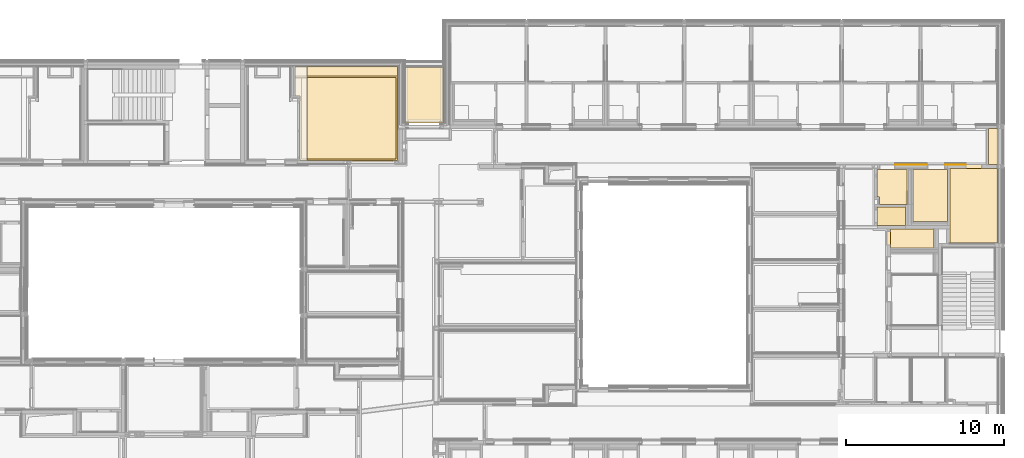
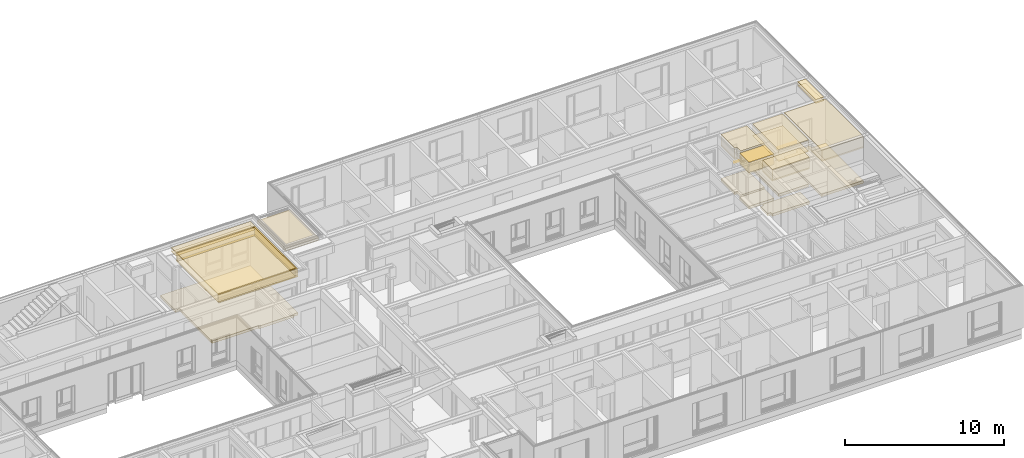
# One storey, part 187 of 207: 41 coverings.
"""IFC4 building model written with IfcOpenShell, lengths in metres."""

from ifc_helpers import new_model, entity, si_unit, converted_unit, derived_unit, frame, frame_2d, origin, origin_with_axes, place, context, subcontext, project, spatial, polyline, rectangle, outline, extrude, material, layer, layer_set, layer_usage, element, save


model = new_model("IFC4")

# Units and contexts
model_context = context("Model", 3, precision=1e-05, world=origin())
body_context = subcontext(model_context, "Body", "Model", "MODEL_VIEW")
ifc_project = project(units=[si_unit("LENGTHUNIT", "METRE"), si_unit("AREAUNIT", "SQUARE_METRE"), si_unit("VOLUMEUNIT", "CUBIC_METRE"), si_unit("MASSUNIT", "GRAM", prefix="KILO"), converted_unit("PLANEANGLEUNIT", "DEGREE", entity("IfcPlaneAngleMeasure", 0.0174532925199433), si_unit("PLANEANGLEUNIT", "RADIAN"), dimensions=[0, 0, 0, 0, 0, 0, 0]), derived_unit("THERMALTRANSMITTANCEUNIT", [(si_unit("POWERUNIT", "WATT"), 1), (si_unit("THERMODYNAMICTEMPERATUREUNIT", "KELVIN"), -1), (si_unit("LENGTHUNIT", "METRE"), -2)]), derived_unit("VOLUMETRICFLOWRATEUNIT", [(si_unit("LENGTHUNIT", "METRE"), 3), (converted_unit("TIMEUNIT", "hour", entity("IfcTimeMeasure", 3600.0), si_unit("TIMEUNIT", "SECOND"), dimensions=[0, 0, 1, 0, 0, 0, 0]), -1), (si_unit("LENGTHUNIT", "METRE"), -1)])], contexts=[model_context])

# Site, building, storey, space
site_placement = place(None, origin())
site = spatial("IfcSite", under=ifc_project, at=site_placement, Name="Psychiatrie Neubau Wunstorf", CompositionType="ELEMENT")
building_placement = place(site_placement, origin())
building = spatial("IfcBuilding", under=site, at=building_placement, Name="Neubau H2 Stationsgebäude", CompositionType="ELEMENT")
storey_placement = place(building_placement, frame((0.0, 0.0, -0.2)))
storey = spatial("IfcBuildingStorey", under=building, at=storey_placement, Name="H2 Ebene 0", CompositionType="ELEMENT", Elevation=-0.2)
space_1_placement = place(storey_placement, frame((74.055, 22.036, 0.0)))
space_1 = spatial("IfcSpace", under=storey, at=space_1_placement, Name="WUN-H2-E00-F09", CompositionType="ELEMENT")

# Coverings
ifc_material_1 = material(Name="97")
ifc_layer_1 = layer(ifc_material_1, 0.001)
ifc_layer_set_1 = layer_set([ifc_layer_1])
ifc_layer_usage_1 = layer_usage(ifc_layer_set_1, "AXIS3", "POSITIVE", 0.0)
covering_1_placement = place(space_1_placement, frame((25.3300062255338, 0.799999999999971, 0.8)))
element("IfcCovering", 1, at=covering_1_placement, inside=space_1, material=ifc_layer_usage_1, Name="Handlauf", PredefinedType="CLADDING", context=body_context, shape_type="SweptSolid", body=[
    extrude(rectangle(XDim=1.32255181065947, YDim=0.1, at=frame_2d((-0.661275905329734, 0.05), x_axis=(-1.0, 0.0))), frame((4.48753909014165, 0.0, 0.1), z_axis=(0.0, 1.0, 0.0), x_axis=(1.0, 0.0, 0.0)), (0.0, 0.0, 1.0), 0.001),
    extrude(rectangle(XDim=0.1, YDim=2.02998727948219, at=frame_2d((-1.01499363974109, -0.05), x_axis=(0.0, -1.0))), frame((2.02998727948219, 0.0, 0.0), z_axis=(0.0, 1.0, 0.0), x_axis=(1.0, 0.0, 0.0)), (0.0, 0.0, 1.0), 0.001),
])
ifc_material_2 = material()
ifc_layer_2 = layer(ifc_material_2, 0.036)
ifc_layer_set_2 = layer_set([ifc_layer_2])
ifc_layer_usage_2 = layer_usage(ifc_layer_set_2, "AXIS3", "POSITIVE", 0.0)
covering_2_placement = place(space_1_placement, frame((31.245, 0.799999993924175, 3.6)))
element("IfcCovering", 2, at=covering_2_placement, inside=space_1, material=ifc_layer_usage_2, Name="Gipsfaserplatten 2-lagig (BSK)", PredefinedType="CEILING", context=body_context, shape_type="SweptSolid", body=[
    extrude(rectangle(XDim=0.588999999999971, YDim=2.28150000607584, at=frame_2d((0.294499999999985, 1.14075000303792), x_axis=(1.0, 0.0))), frame((0.0, 2.28150000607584, 0.0), z_axis=(0.0, 0.0, -1.0), x_axis=(1.0, 0.0, 0.0)), (0.0, 0.0, 1.0), 0.036),
])
ifc_material_3 = material(Name="Installationshöhe")
ifc_layer_3 = layer(ifc_material_3, 0.164)
ifc_layer_set_3 = layer_set([ifc_layer_3])
ifc_layer_usage_3 = layer_usage(ifc_layer_set_3, "AXIS3", "POSITIVE", 0.0)
covering_3_placement = place(space_1_placement, frame((31.245, 0.799999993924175, 3.564)))
element("IfcCovering", 3, at=covering_3_placement, inside=space_1, material=ifc_layer_usage_3, Name="Gipsfaserplatten 2-lagig (BSK)", PredefinedType="CEILING", context=body_context, shape_type="SweptSolid", body=[
    extrude(rectangle(XDim=0.588999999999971, YDim=2.28150000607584, at=frame_2d((0.294499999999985, 1.14075000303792), x_axis=(1.0, 0.0))), frame((0.0, 2.28150000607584, 0.0), z_axis=(0.0, 0.0, -1.0), x_axis=(1.0, 0.0, 0.0)), (0.0, 0.0, 1.0), 0.164),
])
ifc_material_4 = material(Name="A1")
ifc_layer_4 = layer(ifc_material_4, 0.1)
ifc_layer_set_4 = layer_set([ifc_layer_4])
ifc_layer_usage_4 = layer_usage(ifc_layer_set_4, "AXIS3", "POSITIVE", 0.0)
covering_4_placement = place(space_1_placement, frame((31.245, 0.799999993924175, 3.4)))
element("IfcCovering", 4, at=covering_4_placement, inside=space_1, material=ifc_layer_usage_4, Name="Gipsfaserplatten 2-lagig (BSK)", PredefinedType="CEILING", context=body_context, shape_type="SweptSolid", body=[
    extrude(rectangle(XDim=0.588999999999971, YDim=2.28150000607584, at=frame_2d((0.294499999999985, 1.14075000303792), x_axis=(1.0, 0.0))), frame((0.0, 2.28150000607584, 0.0), z_axis=(0.0, 0.0, -1.0), x_axis=(1.0, 0.0, 0.0)), (0.0, 0.0, 1.0), 0.1),
])
ifc_material_5 = material(Name="D1")
ifc_layer_5 = layer(ifc_material_5, 0.001)
ifc_layer_set_5 = layer_set([ifc_layer_5])
ifc_layer_usage_5 = layer_usage(ifc_layer_set_5, "AXIS3", "POSITIVE", 0.0)
covering_5_placement = place(space_1_placement, frame((31.245, 0.799999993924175, 3.3)))
element("IfcCovering", 5, at=covering_5_placement, inside=space_1, material=ifc_layer_usage_5, Name="Gipsfaserplatten 2-lagig (BSK)", PredefinedType="CEILING", context=body_context, shape_type="SweptSolid", body=[
    extrude(rectangle(XDim=0.588999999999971, YDim=2.28150000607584, at=frame_2d((0.294499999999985, 1.14075000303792), x_axis=(1.0, 0.0))), frame((0.0, 2.28150000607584, 0.0), z_axis=(0.0, 0.0, -1.0), x_axis=(1.0, 0.0, 0.0)), (0.0, 0.0, 1.0), 0.001),
])

# Space
space_2_placement = place(storey_placement, frame((99.0909999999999, 17.5520026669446, 0.0)))
space_2 = spatial("IfcSpace", under=storey, at=space_2_placement, Name="WUN-H2-E00-079", CompositionType="ELEMENT")

# Coverings
ifc_material_6 = material()
ifc_layer_6 = layer(ifc_material_6, 0.036)
ifc_layer_set_6 = layer_set([ifc_layer_6])
ifc_layer_usage_6 = layer_usage(ifc_layer_set_6, "AXIS3", "POSITIVE", 0.0)
covering_6_placement = place(space_2_placement, frame((0.0, 0.0, 3.6)))
element("IfcCovering", 6, at=covering_6_placement, inside=space_2, material=ifc_layer_usage_6, Name="Gipsfaserplatten 2-lagig (BSK)", PredefinedType="CEILING", context=body_context, shape_type="SweptSolid", body=[
    extrude(rectangle(XDim=1.20200134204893, YDim=2.71900000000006, at=frame_2d((1.35950000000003, -0.601000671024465), x_axis=(0.0, -1.0))), frame((0.0, 0.0, 0.0), z_axis=(0.0, 0.0, -1.0), x_axis=(1.0, 0.0, 0.0)), (0.0, 0.0, 1.0), 0.036),
])
ifc_material_7 = material(Name="Installationshöhe")
ifc_layer_7 = layer(ifc_material_7, 0.764)
ifc_layer_set_7 = layer_set([ifc_layer_7])
ifc_layer_usage_7 = layer_usage(ifc_layer_set_7, "AXIS3", "POSITIVE", 0.0)
covering_7_placement = place(space_2_placement, frame((0.0, 0.0, 3.564)))
element("IfcCovering", 7, at=covering_7_placement, inside=space_2, material=ifc_layer_usage_7, Name="Gipsfaserplatten 2-lagig (BSK)", PredefinedType="CEILING", context=body_context, shape_type="SweptSolid", body=[
    extrude(rectangle(XDim=1.20200134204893, YDim=2.71900000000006, at=frame_2d((1.35950000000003, -0.601000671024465), x_axis=(0.0, -1.0))), frame((0.0, 0.0, 0.0), z_axis=(0.0, 0.0, -1.0), x_axis=(1.0, 0.0, 0.0)), (0.0, 0.0, 1.0), 0.764),
])
ifc_material_8 = material(Name="E3")
ifc_layer_8 = layer(ifc_material_8, 0.1)
ifc_layer_set_8 = layer_set([ifc_layer_8])
ifc_layer_usage_8 = layer_usage(ifc_layer_set_8, "AXIS3", "POSITIVE", 0.0)
covering_8_placement = place(space_2_placement, frame((0.0, 0.0, 2.8)))
element("IfcCovering", 8, at=covering_8_placement, inside=space_2, material=ifc_layer_usage_8, Name="Rasterdecke", PredefinedType="CEILING", context=body_context, shape_type="SweptSolid", body=[
    extrude(rectangle(XDim=1.20200134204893, YDim=2.71900000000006, at=frame_2d((1.35950000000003, -0.601000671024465), x_axis=(0.0, -1.0))), frame((0.0, 0.0, 0.0), z_axis=(0.0, 0.0, -1.0), x_axis=(1.0, 0.0, 0.0)), (0.0, 0.0, 1.0), 0.1),
])
ifc_material_9 = material(Name="Fl1")
ifc_layer_9 = layer(ifc_material_9, 0.2)
ifc_layer_set_9 = layer_set([ifc_layer_9])
ifc_layer_usage_9 = layer_usage(ifc_layer_set_9, "AXIS3", "POSITIVE", 0.0)
covering_9_placement = place(space_2_placement, frame((-0.231999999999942, 0.0, 0.0)))
element("IfcCovering", 9, at=covering_9_placement, inside=space_2, material=ifc_layer_usage_9, Name="Fliesen", PredefinedType="FLOORING", context=body_context, shape_type="SweptSolid", body=[
    extrude(rectangle(XDim=0.232, YDim=0.885, at=frame_2d((-0.116, -0.4425), x_axis=(-1.0, 0.0))), frame((0.232, 1.06299997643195, 0.0), z_axis=(0.0, 0.0, 1.0), x_axis=(1.0, 0.0, 0.0)), (0.0, 0.0, 1.0), 0.2),
    extrude(rectangle(XDim=2.71900000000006, YDim=1.20200134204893, at=frame_2d((1.35950000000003, 0.601000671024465), x_axis=(1.0, 0.0))), frame((0.231999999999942, 0.0, 0.0), z_axis=(0.0, 0.0, 1.0), x_axis=(1.0, 0.0, 0.0)), (0.0, 0.0, 1.0), 0.2),
])

# Space
space_3_placement = place(storey_placement, frame((98.2250062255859, 20.315005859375, 0.0)))
space_3 = spatial("IfcSpace", under=storey, at=space_3_placement, Name="WUN-H2-E00-077", CompositionType="ELEMENT")

# Coverings
ifc_material_10 = material()
ifc_layer_10 = layer(ifc_material_10, 0.036)
ifc_layer_set_10 = layer_set([ifc_layer_10])
ifc_layer_usage_10 = layer_usage(ifc_layer_set_10, "AXIS3", "POSITIVE", 0.0)
covering_10_placement = place(space_3_placement, frame((0.0, 0.0, 3.6)))
element("IfcCovering", 10, at=covering_10_placement, inside=space_3, material=ifc_layer_usage_10, Name="Gipsfaserplatten 2-lagig (BSK)", PredefinedType="CEILING", context=body_context, shape_type="SweptSolid", body=[
    extrude(outline(polyline([(0.174988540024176, 1.73900428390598), (0.0, 1.73900428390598), (0.0, 0.0), (1.89498678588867, 0.0), (1.89498678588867, 2.21399414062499), (0.174988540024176, 2.21399414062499), (0.174988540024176, 1.73900428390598)])), frame((0.0, 2.21399414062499, 0.0), z_axis=(0.0, 0.0, -1.0), x_axis=(1.0, 0.0, 0.0)), (0.0, 0.0, 1.0), 0.036),
])
ifc_material_11 = material(Name="Installationshöhe")
ifc_layer_11 = layer(ifc_material_11, 0.764)
ifc_layer_set_11 = layer_set([ifc_layer_11])
ifc_layer_usage_11 = layer_usage(ifc_layer_set_11, "AXIS3", "POSITIVE", 0.0)
covering_11_placement = place(space_3_placement, frame((0.0, 0.0, 3.564)))
element("IfcCovering", 11, at=covering_11_placement, inside=space_3, material=ifc_layer_usage_11, Name="Gipsfaserplatten 2-lagig (BSK)", PredefinedType="CEILING", context=body_context, shape_type="SweptSolid", body=[
    extrude(outline(polyline([(0.174988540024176, 1.73900428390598), (0.0, 1.73900428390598), (0.0, 0.0), (1.89498678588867, 0.0), (1.89498678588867, 2.21399414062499), (0.174988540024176, 2.21399414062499), (0.174988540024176, 1.73900428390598)])), frame((0.0, 2.21399414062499, 0.0), z_axis=(0.0, 0.0, -1.0), x_axis=(1.0, 0.0, 0.0)), (0.0, 0.0, 1.0), 0.764),
])
ifc_material_12 = material(Name="E3")
ifc_layer_12 = layer(ifc_material_12, 0.1)
ifc_layer_set_12 = layer_set([ifc_layer_12])
ifc_layer_usage_12 = layer_usage(ifc_layer_set_12, "AXIS3", "POSITIVE", 0.0)
covering_12_placement = place(space_3_placement, frame((0.0, 0.0, 2.8)))
element("IfcCovering", 12, at=covering_12_placement, inside=space_3, material=ifc_layer_usage_12, Name="Rasterdecke", PredefinedType="CEILING", context=body_context, shape_type="SweptSolid", body=[
    extrude(outline(polyline([(0.174988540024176, 1.73900428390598), (0.0, 1.73900428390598), (0.0, 0.0), (1.89498678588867, 0.0), (1.89498678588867, 2.21399414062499), (0.174988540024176, 2.21399414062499), (0.174988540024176, 1.73900428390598)])), frame((0.0, 2.21399414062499, 0.0), z_axis=(0.0, 0.0, -1.0), x_axis=(1.0, 0.0, 0.0)), (0.0, 0.0, 1.0), 0.1),
])
ifc_material_13 = material(Name="Ku2")
ifc_layer_13 = layer(ifc_material_13, 0.2)
ifc_layer_set_13 = layer_set([ifc_layer_13])
ifc_layer_usage_13 = layer_usage(ifc_layer_set_13, "AXIS3", "POSITIVE", 0.0)
covering_13_placement = place(space_3_placement, origin())
element("IfcCovering", 13, at=covering_13_placement, inside=space_3, material=ifc_layer_usage_13, Name="PVC Bahnenware Uni", PredefinedType="FLOORING", context=body_context, shape_type="SweptSolid", body=[
    extrude(outline(polyline([(0.0, 0.474989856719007), (0.174988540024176, 0.474989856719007), (0.174988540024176, 0.0), (1.89498678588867, 0.0), (1.89498678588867, 2.21399414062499), (0.0, 2.21399414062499), (0.0, 0.474989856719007)])), origin_with_axes(), (0.0, 0.0, 1.0), 0.2),
])

# Space
space_4_placement = place(storey_placement, frame((98.2250977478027, 18.9860040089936, 0.0)))
space_4 = spatial("IfcSpace", under=storey, at=space_4_placement, Name="WUN-H2-E00-078", CompositionType="ELEMENT")

# Coverings
ifc_material_14 = material()
ifc_layer_14 = layer(ifc_material_14, 0.036)
ifc_layer_set_14 = layer_set([ifc_layer_14])
ifc_layer_usage_14 = layer_usage(ifc_layer_set_14, "AXIS3", "POSITIVE", 0.0)
covering_14_placement = place(space_4_placement, frame((0.0, 0.0, 3.6)))
element("IfcCovering", 14, at=covering_14_placement, inside=space_4, material=ifc_layer_usage_14, Name="Gipsfaserplatten 2-lagig (BSK)", PredefinedType="CEILING", context=body_context, shape_type="SweptSolid", body=[
    extrude(rectangle(XDim=1.81988903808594, YDim=1.17898976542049, at=frame_2d((0.909944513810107, 0.589494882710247), x_axis=(1.0, 0.0))), frame((0.0, 1.1789897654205, 0.0), z_axis=(0.0, 0.0, -1.0), x_axis=(1.0, 0.0, 0.0)), (0.0, 0.0, 1.0), 0.036),
])
ifc_material_15 = material(Name="Installationshöhe")
ifc_layer_15 = layer(ifc_material_15, 0.764)
ifc_layer_set_15 = layer_set([ifc_layer_15])
ifc_layer_usage_15 = layer_usage(ifc_layer_set_15, "AXIS3", "POSITIVE", 0.0)
covering_15_placement = place(space_4_placement, frame((0.0, 0.0, 3.564)))
element("IfcCovering", 15, at=covering_15_placement, inside=space_4, material=ifc_layer_usage_15, Name="Gipsfaserplatten 2-lagig (BSK)", PredefinedType="CEILING", context=body_context, shape_type="SweptSolid", body=[
    extrude(rectangle(XDim=1.81988903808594, YDim=1.17898976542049, at=frame_2d((0.909944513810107, 0.589494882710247), x_axis=(1.0, 0.0))), frame((0.0, 1.1789897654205, 0.0), z_axis=(0.0, 0.0, -1.0), x_axis=(1.0, 0.0, 0.0)), (0.0, 0.0, 1.0), 0.764),
])
ifc_material_16 = material(Name="E3")
ifc_layer_16 = layer(ifc_material_16, 0.1)
ifc_layer_set_16 = layer_set([ifc_layer_16])
ifc_layer_usage_16 = layer_usage(ifc_layer_set_16, "AXIS3", "POSITIVE", 0.0)
covering_16_placement = place(space_4_placement, frame((0.0, 0.0, 2.8)))
element("IfcCovering", 16, at=covering_16_placement, inside=space_4, material=ifc_layer_usage_16, Name="Rasterdecke", PredefinedType="CEILING", context=body_context, shape_type="SweptSolid", body=[
    extrude(rectangle(XDim=1.81988903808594, YDim=1.17898976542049, at=frame_2d((0.909944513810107, 0.589494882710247), x_axis=(1.0, 0.0))), frame((0.0, 1.1789897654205, 0.0), z_axis=(0.0, 0.0, -1.0), x_axis=(1.0, 0.0, 0.0)), (0.0, 0.0, 1.0), 0.1),
])
ifc_material_17 = material(Name="Ku2")
ifc_layer_17 = layer(ifc_material_17, 0.2)
ifc_layer_set_17 = layer_set([ifc_layer_17])
ifc_layer_usage_17 = layer_usage(ifc_layer_set_17, "AXIS3", "POSITIVE", 0.0)
covering_17_placement = place(space_4_placement, origin())
element("IfcCovering", 17, at=covering_17_placement, inside=space_4, material=ifc_layer_usage_17, Name="PVC Bahnenware Uni", PredefinedType="FLOORING", context=body_context, shape_type="SweptSolid", body=[
    extrude(rectangle(XDim=1.81988903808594, YDim=1.17898976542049, at=frame_2d((-0.909944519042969, -0.589494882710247), x_axis=(-1.0, 0.0))), frame((1.81988903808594, 1.1789897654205, 0.0), z_axis=(0.0, 0.0, 1.0), x_axis=(1.0, 0.0, 0.0)), (0.0, 0.0, 1.0), 0.2),
])

# Space
space_5_placement = place(storey_placement, frame((100.519993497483, 19.2360032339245, 0.0)))
space_5 = spatial("IfcSpace", under=storey, at=space_5_placement, Name="WUN-H2-E00-076", CompositionType="ELEMENT")

# Coverings
ifc_material_18 = material(Name="Fl1")
ifc_layer_18 = layer(ifc_material_18, 0.2)
ifc_layer_set_18 = layer_set([ifc_layer_18])
ifc_layer_usage_18 = layer_usage(ifc_layer_set_18, "AXIS3", "POSITIVE", 0.0)
covering_18_placement = place(space_5_placement, origin())
element("IfcCovering", 18, at=covering_18_placement, inside=space_5, material=ifc_layer_usage_18, Name="Fliesen", PredefinedType="FLOORING", context=body_context, shape_type="SweptSolid", body=[
    extrude(rectangle(XDim=3.29299676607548, YDim=2.1910000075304, at=frame_2d((1.0955000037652, -1.64649838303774), x_axis=(0.0, -1.0))), frame((0.0, 3.29299676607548, 0.0), z_axis=(0.0, 0.0, 1.0), x_axis=(1.0, 0.0, 0.0)), (0.0, 0.0, 1.0), 0.2),
])
ifc_material_19 = material()
ifc_layer_19 = layer(ifc_material_19, 0.036)
ifc_layer_set_19 = layer_set([ifc_layer_19])
ifc_layer_usage_19 = layer_usage(ifc_layer_set_19, "AXIS3", "POSITIVE", 0.0)
covering_19_placement = place(space_5_placement, frame((0.0, 0.0, 3.6)))
element("IfcCovering", 19, at=covering_19_placement, inside=space_5, material=ifc_layer_usage_19, Name="Gipsfaserplatten 2-lagig (BSK)", PredefinedType="CEILING", context=body_context, shape_type="SweptSolid", body=[
    extrude(rectangle(XDim=3.29299676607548, YDim=2.1910000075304, at=frame_2d((1.0955000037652, -1.64649838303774), x_axis=(0.0, -1.0))), frame((0.0, 0.0, 0.0), z_axis=(0.0, 0.0, -1.0), x_axis=(1.0, 0.0, 0.0)), (0.0, 0.0, 1.0), 0.036),
])
ifc_material_20 = material(Name="Installationshöhe")
ifc_layer_20 = layer(ifc_material_20, 0.764)
ifc_layer_set_20 = layer_set([ifc_layer_20])
ifc_layer_usage_20 = layer_usage(ifc_layer_set_20, "AXIS3", "POSITIVE", 0.0)
covering_20_placement = place(space_5_placement, frame((0.0, 0.0, 3.564)))
element("IfcCovering", 20, at=covering_20_placement, inside=space_5, material=ifc_layer_usage_20, Name="Gipsfaserplatten 2-lagig (BSK)", PredefinedType="CEILING", context=body_context, shape_type="SweptSolid", body=[
    extrude(rectangle(XDim=3.29299676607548, YDim=2.1910000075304, at=frame_2d((1.0955000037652, -1.64649838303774), x_axis=(0.0, -1.0))), frame((0.0, 0.0, 0.0), z_axis=(0.0, 0.0, -1.0), x_axis=(1.0, 0.0, 0.0)), (0.0, 0.0, 1.0), 0.764),
])
ifc_material_21 = material(Name="B")
ifc_layer_21 = layer(ifc_material_21, 0.1)
ifc_layer_set_21 = layer_set([ifc_layer_21])
ifc_layer_usage_21 = layer_usage(ifc_layer_set_21, "AXIS3", "POSITIVE", 0.0)
covering_21_placement = place(space_5_placement, frame((0.0, 0.0, 2.8)))
element("IfcCovering", 21, at=covering_21_placement, inside=space_5, material=ifc_layer_usage_21, Name="Gipskarton, imprägniert", PredefinedType="CEILING", context=body_context, shape_type="SweptSolid", body=[
    extrude(rectangle(XDim=3.29299676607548, YDim=2.1910000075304, at=frame_2d((1.0955000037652, -1.64649838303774), x_axis=(0.0, -1.0))), frame((0.0, 0.0, 0.0), z_axis=(0.0, 0.0, -1.0), x_axis=(1.0, 0.0, 0.0)), (0.0, 0.0, 1.0), 0.1),
])
ifc_material_22 = material(Name="D1")
ifc_layer_22 = layer(ifc_material_22, 0.001)
ifc_layer_set_22 = layer_set([ifc_layer_22])
ifc_layer_usage_22 = layer_usage(ifc_layer_set_22, "AXIS3", "POSITIVE", 0.0)
covering_22_placement = place(space_5_placement, frame((0.0, 0.0, 2.7)))
element("IfcCovering", 22, at=covering_22_placement, inside=space_5, material=ifc_layer_usage_22, Name="Gipsfaserplatten 2-lagig (BSK)", PredefinedType="CEILING", context=body_context, shape_type="SweptSolid", body=[
    extrude(rectangle(XDim=3.29299676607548, YDim=2.1910000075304, at=frame_2d((1.0955000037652, -1.64649838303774), x_axis=(0.0, -1.0))), frame((0.0, 0.0, 0.0), z_axis=(0.0, 0.0, -1.0), x_axis=(1.0, 0.0, 0.0)), (0.0, 0.0, 1.0), 0.001),
])

# Space
space_6_placement = place(storey_placement, frame((102.850003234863, 17.8549996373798, 0.0)))
space_6 = spatial("IfcSpace", under=storey, at=space_6_placement, Name="WUN-H2-E00-075", CompositionType="ELEMENT")

# Coverings
ifc_material_23 = material()
ifc_layer_23 = layer(ifc_material_23, 0.036)
ifc_layer_set_23 = layer_set([ifc_layer_23])
ifc_layer_usage_23 = layer_usage(ifc_layer_set_23, "AXIS3", "POSITIVE", 0.0)
covering_23_placement = place(space_6_placement, frame((0.0109967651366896, 0.0, 3.6)))
element("IfcCovering", 23, at=covering_23_placement, inside=space_6, material=ifc_layer_usage_23, Name="Gipsfaserplatten 2-lagig (BSK)", PredefinedType="CEILING", context=body_context, shape_type="SweptSolid", body=[
    extrude(rectangle(XDim=4.74900039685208, YDim=3.02800000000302, at=frame_2d((1.514, -2.37450233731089), x_axis=(0.0, -1.0))), frame((0.0, 0.0, 0.0), z_axis=(0.0, 0.0, -1.0), x_axis=(1.0, 0.0, 0.0)), (0.0, 0.0, 1.0), 0.036),
])
ifc_material_24 = material(Name="Installationshöhe")
ifc_layer_24 = layer(ifc_material_24, 0.764)
ifc_layer_set_24 = layer_set([ifc_layer_24])
ifc_layer_usage_24 = layer_usage(ifc_layer_set_24, "AXIS3", "POSITIVE", 0.0)
covering_24_placement = place(space_6_placement, frame((0.0109967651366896, 0.0, 3.564)))
element("IfcCovering", 24, at=covering_24_placement, inside=space_6, material=ifc_layer_usage_24, Name="Gipsfaserplatten 2-lagig (BSK)", PredefinedType="CEILING", context=body_context, shape_type="SweptSolid", body=[
    extrude(rectangle(XDim=4.74900039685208, YDim=3.02800000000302, at=frame_2d((1.514, -2.37450233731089), x_axis=(0.0, -1.0))), frame((0.0, 0.0, 0.0), z_axis=(0.0, 0.0, -1.0), x_axis=(1.0, 0.0, 0.0)), (0.0, 0.0, 1.0), 0.764),
])
ifc_material_25 = material(Name="E3")
ifc_layer_25 = layer(ifc_material_25, 0.1)
ifc_layer_set_25 = layer_set([ifc_layer_25])
ifc_layer_usage_25 = layer_usage(ifc_layer_set_25, "AXIS3", "POSITIVE", 0.0)
covering_25_placement = place(space_6_placement, frame((0.0109967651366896, 0.0, 2.8)))
element("IfcCovering", 25, at=covering_25_placement, inside=space_6, material=ifc_layer_usage_25, Name="Rasterdecke", PredefinedType="CEILING", context=body_context, shape_type="SweptSolid", body=[
    extrude(rectangle(XDim=4.74900039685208, YDim=3.02800000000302, at=frame_2d((1.514, -2.37450233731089), x_axis=(0.0, -1.0))), frame((0.0, 0.0, 0.0), z_axis=(0.0, 0.0, -1.0), x_axis=(1.0, 0.0, 0.0)), (0.0, 0.0, 1.0), 0.1),
])
ifc_material_26 = material(Name="Ku2")
ifc_layer_26 = layer(ifc_material_26, 0.2)
ifc_layer_set_26 = layer_set([ifc_layer_26])
ifc_layer_usage_26 = layer_usage(ifc_layer_set_26, "AXIS3", "POSITIVE", 0.0)
covering_26_placement = place(space_6_placement, origin())
element("IfcCovering", 26, at=covering_26_placement, inside=space_6, material=ifc_layer_usage_26, Name="PVC Bahnenware Uni", PredefinedType="FLOORING", context=body_context, shape_type="SweptSolid", body=[
    extrude(rectangle(XDim=0.232, YDim=1.01, at=frame_2d((0.505, -0.116), x_axis=(0.0, -1.0))), frame((1.02254208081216, 4.98100036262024, 0.0), z_axis=(0.0, 0.0, 1.0), x_axis=(1.0, 0.0, 0.0)), (0.0, 0.0, 1.0), 0.2),
    extrude(rectangle(XDim=4.74900039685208, YDim=3.028, at=frame_2d((1.514, -2.37450019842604), x_axis=(0.0, -1.0))), frame((0.0109967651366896, 4.74900039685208, 0.0), z_axis=(0.0, 0.0, 1.0), x_axis=(1.0, 0.0, 0.0)), (0.0, 0.0, 1.0), 0.2),
])

# Space
space_7_placement = place(storey_placement, frame((68.291, 25.4740036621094, 0.13)))
space_7 = spatial("IfcSpace", under=storey, at=space_7_placement, Name="WUN-H2-E00-L02", CompositionType="ELEMENT")

# Coverings
ifc_material_27 = material(Name="Installationshöhe")
ifc_layer_27 = layer(ifc_material_27, 0.185)
ifc_layer_set_27 = layer_set([ifc_layer_27])
ifc_layer_usage_27 = layer_usage(ifc_layer_set_27, "AXIS3", "POSITIVE", 0.0)
covering_27_placement = place(space_7_placement, frame((0.0, 0.0, 3.39)))
element("IfcCovering", 27, at=covering_27_placement, inside=space_7, material=ifc_layer_usage_27, PredefinedType="CEILING", context=body_context, shape_type="SweptSolid", body=[
    extrude(rectangle(XDim=3.55349623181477, YDim=2.418, at=frame_2d((1.209, -1.77674811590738), x_axis=(0.0, -1.0))), frame((0.0, 0.0, 0.0), z_axis=(0.0, 0.0, -1.0), x_axis=(1.0, 0.0, 0.0)), (0.0, 0.0, 1.0), 0.185),
])
ifc_material_28 = material(Name="-")
ifc_layer_28 = layer(ifc_material_28, 0.045)
ifc_layer_set_28 = layer_set([ifc_layer_28])
ifc_layer_usage_28 = layer_usage(ifc_layer_set_28, "AXIS3", "POSITIVE", 0.0)
covering_28_placement = place(space_7_placement, frame((0.0, 0.0, 3.205)))
element("IfcCovering", 28, at=covering_28_placement, inside=space_7, material=ifc_layer_usage_28, PredefinedType="CEILING", context=body_context, shape_type="SweptSolid", body=[
    extrude(rectangle(XDim=3.55349623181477, YDim=2.418, at=frame_2d((1.209, -1.77674811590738), x_axis=(0.0, -1.0))), frame((0.0, 0.0, 0.0), z_axis=(0.0, 0.0, -1.0), x_axis=(1.0, 0.0, 0.0)), (0.0, 0.0, 1.0), 0.045),
])

# Space
space_8_placement = place(storey_placement, frame((61.289, 23.0959999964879, 0.0)))
space_8 = spatial("IfcSpace", under=storey, at=space_8_placement, Name="WUN-H2-E00-055", CompositionType="ELEMENT")

# Coverings
ifc_material_29 = material(Name="Ku1")
ifc_layer_29 = layer(ifc_material_29, 0.2)
ifc_layer_set_29 = layer_set([ifc_layer_29])
ifc_layer_usage_29 = layer_usage(ifc_layer_set_29, "AXIS3", "POSITIVE", 0.0)
covering_29_placement = place(space_8_placement, frame((0.0, -0.0759999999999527, 0.0)))
element("IfcCovering", 29, at=covering_29_placement, inside=space_8, material=ifc_layer_usage_29, Name="PVC Bahnenware Holzoptik", PredefinedType="FLOORING", context=body_context, shape_type="SweptSolid", body=[
    extrude(rectangle(XDim=0.0350000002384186, YDim=3.667, at=frame_2d((-0.0175000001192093, -1.8335), x_axis=(-1.0, 0.0))), frame((0.325, 3.84399969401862, 0.0), z_axis=(0.0, 0.0, 1.0), x_axis=(1.0, 0.0, 0.0)), (0.0, 0.0, 1.0), 0.2),
    extrude(rectangle(XDim=0.0759999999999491, YDim=2.55, at=frame_2d((1.275, -0.0379999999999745), x_axis=(0.0, -1.0))), frame((3.6705, 0.0759999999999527, 0.0), z_axis=(0.0, 0.0, 1.0), x_axis=(1.0, 0.0, 0.0)), (0.0, 0.0, 1.0), 0.2),
    extrude(outline(polyline([(0.0, 5.96799969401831), (0.0, 4.09299969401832), (0.324999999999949, 4.09299969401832), (0.324999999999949, 0.0), (6.52499999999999, 0.0), (6.52499999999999, 5.96799969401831), (0.0, 5.96799969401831)])), frame((0.0, 0.0759999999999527, 0.0), z_axis=(3.58499599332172e-17, 4.88071279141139e-19, 1.0), x_axis=(1.0, 0.0, 0.0)), (0.0, -4.88071279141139e-19, 1.0), 0.2),
])
ifc_material_30 = material()
ifc_layer_30 = layer(ifc_material_30, 0.036)
ifc_layer_set_30 = layer_set([ifc_layer_30])
ifc_layer_usage_30 = layer_usage(ifc_layer_set_30, "AXIS3", "POSITIVE", 0.0)
covering_30_placement = place(space_8_placement, frame((0.773500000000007, 0.0, 3.6)))
element("IfcCovering", 30, at=covering_30_placement, inside=space_8, material=ifc_layer_usage_30, Name="Gipsfaserplatten 2-lagig (BSK)", PredefinedType="CEILING", context=body_context, shape_type="SweptSolid", body=[
    extrude(outline(polyline([(0.0, 0.1), (0.0, 0.0), (5.75149999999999, 0.0), (5.75149999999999, 5.3679996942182), (0.0, 5.3679996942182), (0.0, 5.2679996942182), (5.65149999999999, 5.2679996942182), (5.65149999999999, 0.1), (0.0, 0.1)])), frame((0.0, 5.3679996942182, 0.0), z_axis=(0.0, 0.0, -1.0), x_axis=(1.0, 0.0, 0.0)), (0.0, 0.0, 1.0), 0.036),
])
ifc_material_31 = material(Name="Installationshöhe")
ifc_layer_31 = layer(ifc_material_31, 0.464)
ifc_layer_set_31 = layer_set([ifc_layer_31])
ifc_layer_usage_31 = layer_usage(ifc_layer_set_31, "AXIS3", "POSITIVE", 0.0)
covering_31_placement = place(space_8_placement, frame((0.773500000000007, 0.0, 3.564)))
element("IfcCovering", 31, at=covering_31_placement, inside=space_8, material=ifc_layer_usage_31, Name="Gipsfaserplatten 2-lagig (BSK)", PredefinedType="CEILING", context=body_context, shape_type="SweptSolid", body=[
    extrude(outline(polyline([(0.0, 0.1), (0.0, 0.0), (5.75149999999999, 0.0), (5.75149999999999, 5.3679996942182), (0.0, 5.3679996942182), (0.0, 5.2679996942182), (5.65149999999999, 5.2679996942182), (5.65149999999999, 0.1), (0.0, 0.1)])), frame((0.0, 5.3679996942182, 0.0), z_axis=(0.0, 0.0, -1.0), x_axis=(1.0, 0.0, 0.0)), (0.0, 0.0, 1.0), 0.464),
])
ifc_material_32 = material(Name="A1")
ifc_layer_32 = layer(ifc_material_32, 0.15)
ifc_layer_set_32 = layer_set([ifc_layer_32])
ifc_layer_usage_32 = layer_usage(ifc_layer_set_32, "AXIS3", "POSITIVE", 0.0)
covering_32_placement = place(space_8_placement, frame((0.773500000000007, 0.0, 3.1)))
element("IfcCovering", 32, at=covering_32_placement, inside=space_8, material=ifc_layer_usage_32, Name="Gipsfaserplatten 2-lagig (BSK)", PredefinedType="CEILING", context=body_context, shape_type="SweptSolid", body=[
    extrude(outline(polyline([(0.0, 0.1), (0.0, 0.0), (5.75149999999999, 0.0), (5.75149999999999, 5.3679996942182), (0.0, 5.3679996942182), (0.0, 5.2679996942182), (5.65149999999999, 5.2679996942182), (5.65149999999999, 0.1), (0.0, 0.1)])), frame((0.0, 5.3679996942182, 0.0), z_axis=(0.0, 0.0, -1.0), x_axis=(1.0, 0.0, 0.0)), (0.0, 0.0, 1.0), 0.15),
])
ifc_material_33 = material(Name="D1")
ifc_layer_33 = layer(ifc_material_33, 0.001)
ifc_layer_set_33 = layer_set([ifc_layer_33])
ifc_layer_usage_33 = layer_usage(ifc_layer_set_33, "AXIS3", "POSITIVE", 0.0)
covering_33_placement = place(space_8_placement, frame((0.773500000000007, 0.0, 2.95)))
element("IfcCovering", 33, at=covering_33_placement, inside=space_8, material=ifc_layer_usage_33, Name="Gipsfaserplatten 2-lagig (BSK)", PredefinedType="CEILING", context=body_context, shape_type="SweptSolid", body=[
    extrude(outline(polyline([(0.0, 0.1), (0.0, 0.0), (5.75149999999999, 0.0), (5.75149999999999, 5.3679996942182), (0.0, 5.3679996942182), (0.0, 5.2679996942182), (5.65149999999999, 5.2679996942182), (5.65149999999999, 0.1), (0.0, 0.1)])), frame((0.0, 5.3679996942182, 0.0), z_axis=(0.0, 0.0, -1.0), x_axis=(1.0, 0.0, 0.0)), (0.0, 0.0, 1.0), 0.001),
])
ifc_material_34 = material()
ifc_layer_34 = layer(ifc_material_34, 0.036)
ifc_layer_set_34 = layer_set([ifc_layer_34])
ifc_layer_usage_34 = layer_usage(ifc_layer_set_34, "AXIS3", "POSITIVE", 0.0)
covering_34_placement = place(space_8_placement, frame((0.773500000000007, 0.0999999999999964, 3.6)))
element("IfcCovering", 34, at=covering_34_placement, inside=space_8, material=ifc_layer_usage_34, Name="Gipsfaserplatten 2-lagig (BSK)", PredefinedType="CEILING", context=body_context, shape_type="SweptSolid", body=[
    extrude(rectangle(XDim=5.65149999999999, YDim=5.1679996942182, at=frame_2d((-2.82574999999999, -2.5839998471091), x_axis=(-1.0, 0.0))), frame((5.65149999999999, 0.0, 0.0), z_axis=(0.0, 0.0, -1.0), x_axis=(1.0, 0.0, 0.0)), (0.0, 0.0, 1.0), 0.036),
])
ifc_material_35 = material(Name="Installationshöhe")
ifc_layer_35 = layer(ifc_material_35, 0.464)
ifc_layer_set_35 = layer_set([ifc_layer_35])
ifc_layer_usage_35 = layer_usage(ifc_layer_set_35, "AXIS3", "POSITIVE", 0.0)
covering_35_placement = place(space_8_placement, frame((0.773500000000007, 0.0999999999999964, 3.564)))
element("IfcCovering", 35, at=covering_35_placement, inside=space_8, material=ifc_layer_usage_35, Name="Gipsfaserplatten 2-lagig (BSK)", PredefinedType="CEILING", context=body_context, shape_type="SweptSolid", body=[
    extrude(rectangle(XDim=5.65149999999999, YDim=5.1679996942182, at=frame_2d((-2.82574999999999, -2.5839998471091), x_axis=(-1.0, 0.0))), frame((5.65149999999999, 0.0, 0.0), z_axis=(0.0, 0.0, -1.0), x_axis=(1.0, 0.0, 0.0)), (0.0, 0.0, 1.0), 0.464),
])
ifc_material_36 = material(Name="Aa")
ifc_layer_36 = layer(ifc_material_36, 0.15)
ifc_layer_set_36 = layer_set([ifc_layer_36])
ifc_layer_usage_36 = layer_usage(ifc_layer_set_36, "AXIS3", "POSITIVE", 0.0)
covering_36_placement = place(space_8_placement, frame((0.773500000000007, 0.0999999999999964, 3.1)))
element("IfcCovering", 36, at=covering_36_placement, inside=space_8, material=ifc_layer_usage_36, Name="Gipsfaserplatten 2-lagig (BSK)", PredefinedType="CEILING", context=body_context, shape_type="SweptSolid", body=[
    extrude(rectangle(XDim=5.65149999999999, YDim=5.1679996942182, at=frame_2d((-2.82574999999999, -2.5839998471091), x_axis=(-1.0, 0.0))), frame((5.65149999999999, 0.0, 0.0), z_axis=(0.0, 0.0, -1.0), x_axis=(1.0, 0.0, 0.0)), (0.0, 0.0, 1.0), 0.15),
])
ifc_material_37 = material(Name="D1")
ifc_layer_37 = layer(ifc_material_37, 0.001)
ifc_layer_set_37 = layer_set([ifc_layer_37])
ifc_layer_usage_37 = layer_usage(ifc_layer_set_37, "AXIS3", "POSITIVE", 0.0)
covering_37_placement = place(space_8_placement, frame((0.773500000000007, 0.0999999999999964, 2.95)))
element("IfcCovering", 37, at=covering_37_placement, inside=space_8, material=ifc_layer_usage_37, Name="Gipsfaserplatten 2-lagig (BSK)", PredefinedType="CEILING", context=body_context, shape_type="SweptSolid", body=[
    extrude(rectangle(XDim=5.65149999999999, YDim=5.1679996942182, at=frame_2d((-2.82574999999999, -2.5839998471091), x_axis=(-1.0, 0.0))), frame((5.65149999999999, 0.0, 0.0), z_axis=(0.0, 0.0, -1.0), x_axis=(1.0, 0.0, 0.0)), (0.0, 0.0, 1.0), 0.001),
])
ifc_material_38 = material()
ifc_layer_38 = layer(ifc_material_38, 0.036)
ifc_layer_set_38 = layer_set([ifc_layer_38])
ifc_layer_usage_38 = layer_usage(ifc_layer_set_38, "AXIS3", "POSITIVE", 0.0)
covering_38_placement = place(space_8_placement, frame((0.773500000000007, 5.3679996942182, 3.6)))
element("IfcCovering", 38, at=covering_38_placement, inside=space_8, material=ifc_layer_usage_38, Name="Gipsfaserplatten 2-lagig (BSK)", PredefinedType="CEILING", context=body_context, shape_type="SweptSolid", body=[
    extrude(rectangle(XDim=5.75149999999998, YDim=0.599999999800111, at=frame_2d((2.87574999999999, 0.299999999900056), x_axis=(1.0, 0.0))), frame((0.0, 0.599999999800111, 0.0), z_axis=(0.0, 0.0, -1.0), x_axis=(1.0, 0.0, 0.0)), (0.0, 0.0, 1.0), 0.036),
])
ifc_material_39 = material(Name="Installationshöhe")
ifc_layer_39 = layer(ifc_material_39, 0.164)
ifc_layer_set_39 = layer_set([ifc_layer_39])
ifc_layer_usage_39 = layer_usage(ifc_layer_set_39, "AXIS3", "POSITIVE", 0.0)
covering_39_placement = place(space_8_placement, frame((0.773500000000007, 5.3679996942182, 3.564)))
element("IfcCovering", 39, at=covering_39_placement, inside=space_8, material=ifc_layer_usage_39, Name="Gipsfaserplatten 2-lagig (BSK)", PredefinedType="CEILING", context=body_context, shape_type="SweptSolid", body=[
    extrude(rectangle(XDim=5.75149999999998, YDim=0.599999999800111, at=frame_2d((2.87574999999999, 0.299999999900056), x_axis=(1.0, 0.0))), frame((0.0, 0.599999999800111, 0.0), z_axis=(0.0, 0.0, -1.0), x_axis=(1.0, 0.0, 0.0)), (0.0, 0.0, 1.0), 0.164),
])
ifc_material_40 = material(Name="A1")
ifc_layer_40 = layer(ifc_material_40, 0.1)
ifc_layer_set_40 = layer_set([ifc_layer_40])
ifc_layer_usage_40 = layer_usage(ifc_layer_set_40, "AXIS3", "POSITIVE", 0.0)
covering_40_placement = place(space_8_placement, frame((0.773500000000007, 5.3679996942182, 3.4)))
element("IfcCovering", 40, at=covering_40_placement, inside=space_8, material=ifc_layer_usage_40, Name="Gipsfaserplatten 2-lagig (BSK)", PredefinedType="CEILING", context=body_context, shape_type="SweptSolid", body=[
    extrude(rectangle(XDim=5.75149999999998, YDim=0.599999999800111, at=frame_2d((2.87574999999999, 0.299999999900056), x_axis=(1.0, 0.0))), frame((0.0, 0.599999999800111, 0.0), z_axis=(0.0, 0.0, -1.0), x_axis=(1.0, 0.0, 0.0)), (0.0, 0.0, 1.0), 0.1),
])
ifc_material_41 = material(Name="D1")
ifc_layer_41 = layer(ifc_material_41, 0.001)
ifc_layer_set_41 = layer_set([ifc_layer_41])
ifc_layer_usage_41 = layer_usage(ifc_layer_set_41, "AXIS3", "POSITIVE", 0.0)
covering_41_placement = place(space_8_placement, frame((0.773500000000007, 5.3679996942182, 3.3)))
element("IfcCovering", 41, at=covering_41_placement, inside=space_8, material=ifc_layer_usage_41, Name="Gipsfaserplatten 2-lagig (BSK)", PredefinedType="CEILING", context=body_context, shape_type="SweptSolid", body=[
    extrude(rectangle(XDim=5.75149999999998, YDim=0.599999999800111, at=frame_2d((2.87574999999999, 0.299999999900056), x_axis=(1.0, 0.0))), frame((0.0, 0.599999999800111, 0.0), z_axis=(0.0, 0.0, -1.0), x_axis=(1.0, 0.0, 0.0)), (0.0, 0.0, 1.0), 0.001),
])

save(model, "model.ifc")
